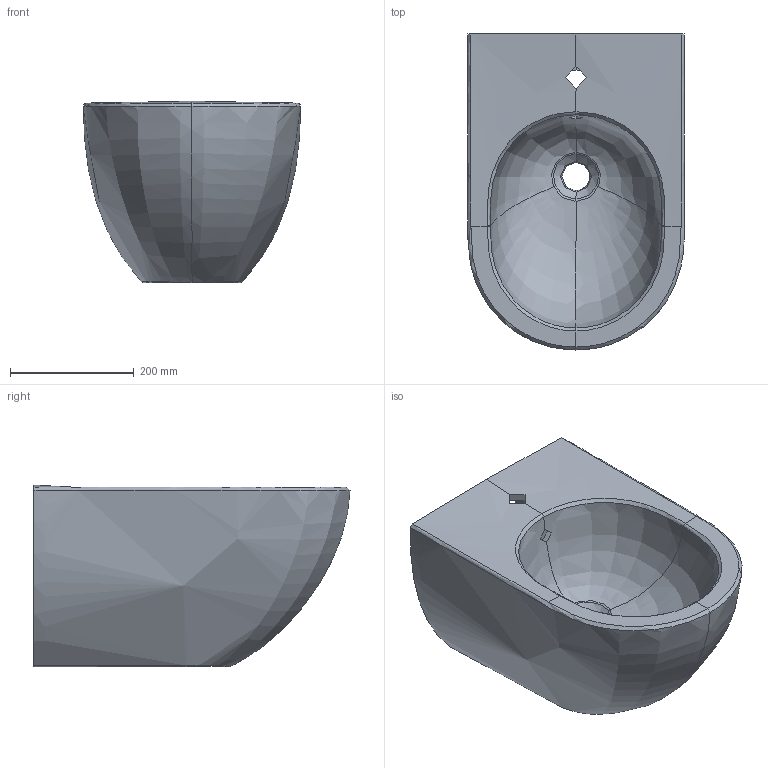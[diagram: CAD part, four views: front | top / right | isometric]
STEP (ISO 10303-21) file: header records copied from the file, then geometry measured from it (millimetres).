
FILE_DESCRIPTION(/* description */ (''),/* implementation_level */ '2;1');
FILE_NAME(/* name */ 'C:\Planerdaten\Export PLA\500.601.01.1\stp\500601.stp',/* time_stamp */ '2020-02-24T08:13:05+01:00',/* author */ ('JANAN'),/* organization */ (''),/* preprocessor_version */ 'ST-DEVELOPER v16.13',/* originating_system */ 'Autodesk Inventor 2018',/* authorisation */ '');
FILE_SCHEMA (('AUTOMOTIVE_DESIGN { 1 0 10303 214 3 1 1 }'));
Products named in the file (1): WBI Ge+Acn T51 m/ÜLF
Bounding box: 350.22 x 510 x 293 mm (x, y, z)
Volume: 19026012 mm3; surface area: 868429.2 mm2
Topology: 1 solids, 1 shells, 442 faces, 1079 edges, 627 vertices
Faces by surface type: bspline 336, cylinder 52, plane 42, torus 4, cone 4, sphere 4
Full cylindrical faces by diameter (mm): 34.993 x1, 46 x1
Entity records: 69364 total; most frequent: CARTESIAN_POINT 60854, ORIENTED_EDGE 2130, DIRECTION 1072, EDGE_CURVE 1065, VERTEX_POINT 625, B_SPLINE_CURVE_WITH_KNOTS 544, AXIS2_PLACEMENT_3D 468, EDGE_LOOP 448
